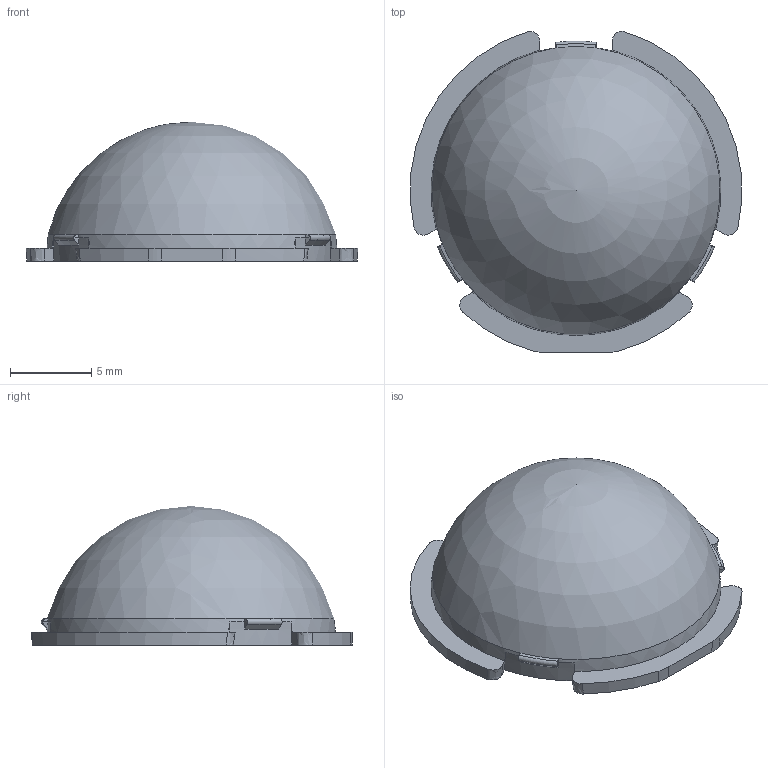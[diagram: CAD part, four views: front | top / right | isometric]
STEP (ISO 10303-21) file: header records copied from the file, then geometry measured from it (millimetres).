
FILE_DESCRIPTION(/* description */ ('Unknown'),/* implementation_level */ '2;1');
FILE_NAME(/* name */ '022-N08-03',/* time_stamp */ '2026-06-11T08:36:01+02:00',/* author */ ('Unknown'),/* organization */ ('Unknown'),/* preprocessor_version */ 'ST-DEVELOPER v16.7',/* originating_system */ 'Solid Edge',/* authorisation */ 'Unknown');
FILE_SCHEMA (('AUTOMOTIVE_DESIGN {1 0 10303 214 3 1 1}'));
Length unit declared in the file: millimetre
Products named in the file (1): 022-N08-03
Bounding box: 20.46 x 19.82 x 8.63 mm (x, y, z)
Volume: 552.6 mm3; surface area: 1048.4 mm2
Topology: 1 solids, 1 shells, 254 faces, 666 edges, 442 vertices
Faces by surface type: plane 191, bspline 43, cone 13, torus 3, cylinder 2, sphere 2
Entity records: 9198 total; most frequent: CARTESIAN_POINT 3322, ORIENTED_EDGE 1302, DIRECTION 993, EDGE_CURVE 651, VERTEX_POINT 439, LINE 433, VECTOR 433, EDGE_LOOP 294
